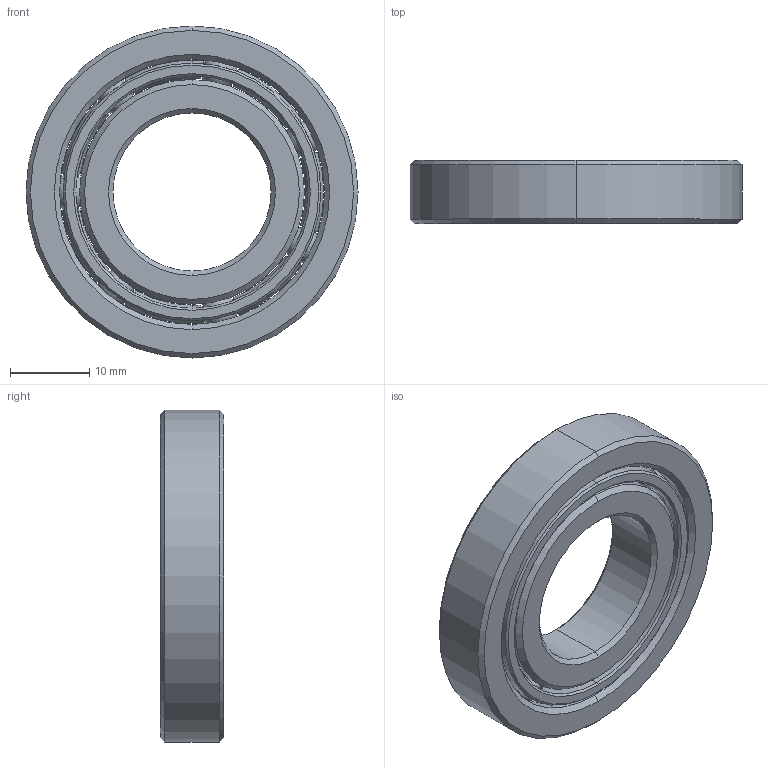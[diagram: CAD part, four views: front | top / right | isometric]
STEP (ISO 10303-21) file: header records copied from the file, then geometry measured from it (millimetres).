
FILE_DESCRIPTION (( 'STEP AP214' ), '1' );
FILE_NAME ('16004 BEARING V3 STYLE.STEP', '2022-02-15T23:37:36', ( '' ), ( '' ), 'SwSTEP 2.0', 'SolidWorks 2019', '' );
FILE_SCHEMA (( 'AUTOMOTIVE_DESIGN' ));
Length unit declared in the file: millimetre
Products named in the file (1): 16004 BEARING V3 STYLE
Bounding box: 42 x 8 x 42 mm (x, y, z)
Volume: 7232.6 mm3; surface area: 6993.1 mm2
Topology: 11 solids, 11 shells, 280 faces, 793 edges, 491 vertices
Faces by surface type: cone 128, sphere 70, cylinder 56, plane 20, torus 6
Entity records: 10140 total; most frequent: CARTESIAN_POINT 2639, ORIENTED_EDGE 1460, DIRECTION 1402, EDGE_CURVE 730, AXIS2_PLACEMENT_3D 653, VERTEX_POINT 470, CIRCLE 372, EDGE_LOOP 286
